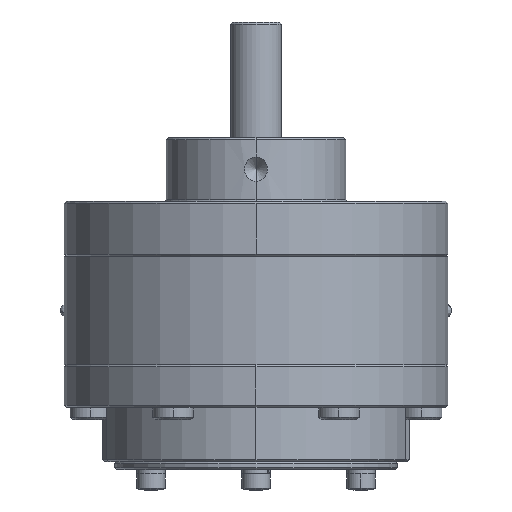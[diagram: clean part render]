
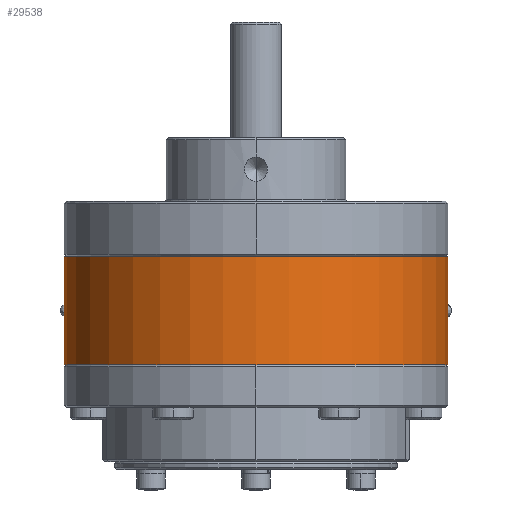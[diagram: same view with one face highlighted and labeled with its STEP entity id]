
A CAD part, front view. The second image highlights one B-rep face of the part: STEP entity #29538.
In plain terms, the highlighted cylindrical face has radius 47.5 mm (diameter 95 mm), a partial arc.
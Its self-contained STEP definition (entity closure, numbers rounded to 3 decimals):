
#230 = CARTESIAN_POINT ( 'NONE',  ( -47.5, 0., -13.375 ) ) ;
#591 = CARTESIAN_POINT ( 'NONE',  ( 47.5, 0., 40.629 ) ) ;
#794 = VERTEX_POINT ( 'NONE', #32399 ) ;
#1503 = CARTESIAN_POINT ( 'NONE',  ( 0., 0., -13.375 ) ) ;
#1534 = CARTESIAN_POINT ( 'NONE',  ( 0., 0., 13.375 ) ) ;
#1731 = AXIS2_PLACEMENT_3D ( 'NONE', #1503, #5552, #13176 ) ;
#2947 = DIRECTION ( 'NONE',  ( 0., 0., 1. ) ) ;
#3144 = LINE ( 'NONE', #43837, #22493 ) ;
#3242 = AXIS2_PLACEMENT_3D ( 'NONE', #1534, #44077, #4913 ) ;
#3470 = ORIENTED_EDGE ( 'NONE', *, *, #20025, .T. ) ;
#3485 = VERTEX_POINT ( 'NONE', #23928 ) ;
#4181 = AXIS2_PLACEMENT_3D ( 'NONE', #28213, #9133, #40355 ) ;
#4234 = EDGE_CURVE ( 'NONE', #794, #5096, #31424, .T. ) ;
#4913 = DIRECTION ( 'NONE',  ( 1., 0., 0. ) ) ;
#5096 = VERTEX_POINT ( 'NONE', #26433 ) ;
#5341 = LINE ( 'NONE', #37133, #22862 ) ;
#5552 = DIRECTION ( 'NONE',  ( 0., 0., 1. ) ) ;
#6924 = DIRECTION ( 'NONE',  ( 0., 0., 1. ) ) ;
#8556 = ORIENTED_EDGE ( 'NONE', *, *, #49744, .T. ) ;
#8682 = ORIENTED_EDGE ( 'NONE', *, *, #4234, .F. ) ;
#9133 = DIRECTION ( 'NONE',  ( 0., 0., 1. ) ) ;
#10045 = VERTEX_POINT ( 'NONE', #230 ) ;
#10101 = VECTOR ( 'NONE', #34856, 1000. ) ;
#12954 = EDGE_CURVE ( 'NONE', #10045, #17619, #3144, .T. ) ;
#13176 = DIRECTION ( 'NONE',  ( 1., 0., 0. ) ) ;
#13470 = EDGE_LOOP ( 'NONE', ( #16404, #35492, #20969, #3470, #43267, #8556, #8682, #29287 ) ) ;
#14845 = CARTESIAN_POINT ( 'NONE',  ( -47.5, 0., -11.25 ) ) ;
#16404 = ORIENTED_EDGE ( 'NONE', *, *, #12954, .F. ) ;
#17085 = CARTESIAN_POINT ( 'NONE',  ( 47.5, 0., -11.25 ) ) ;
#17287 = CIRCLE ( 'NONE', #1731, 47.5 ) ;
#17363 = LINE ( 'NONE', #591, #10101 ) ;
#17619 = VERTEX_POINT ( 'NONE', #14845 ) ;
#20025 = EDGE_CURVE ( 'NONE', #47270, #3485, #17363, .T. ) ;
#20969 = ORIENTED_EDGE ( 'NONE', *, *, #27932, .T. ) ;
#21589 = LINE ( 'NONE', #32382, #40273 ) ;
#22026 = CARTESIAN_POINT ( 'NONE',  ( 47.5, 0., 40.629 ) ) ;
#22493 = VECTOR ( 'NONE', #24550, 1000. ) ;
#22862 = VECTOR ( 'NONE', #6924, 1000. ) ;
#23928 = CARTESIAN_POINT ( 'NONE',  ( 47.5, 0., 11.25 ) ) ;
#24550 = DIRECTION ( 'NONE',  ( 0., 0., 1. ) ) ;
#24995 = CARTESIAN_POINT ( 'NONE',  ( -47.5, 0., 40.629 ) ) ;
#25100 = CARTESIAN_POINT ( 'NONE',  ( 47.5, 0., 13.375 ) ) ;
#26433 = CARTESIAN_POINT ( 'NONE',  ( -47.5, 0., 13.375 ) ) ;
#27932 = EDGE_CURVE ( 'NONE', #37030, #47270, #28086, .T. ) ;
#28086 = LINE ( 'NONE', #22026, #45626 ) ;
#28213 = CARTESIAN_POINT ( 'NONE',  ( 0., 0., 40.629 ) ) ;
#29287 = ORIENTED_EDGE ( 'NONE', *, *, #31415, .T. ) ;
#29538 = ADVANCED_FACE ( 'NONE', ( #47853 ), #36969, .T. ) ;
#30781 = VECTOR ( 'NONE', #43930, 1000. ) ;
#31016 = EDGE_CURVE ( 'NONE', #3485, #37301, #5341, .T. ) ;
#31415 = EDGE_CURVE ( 'NONE', #794, #17619, #21589, .T. ) ;
#31424 = LINE ( 'NONE', #24995, #30781 ) ;
#31830 = CIRCLE ( 'NONE', #3242, 47.5 ) ;
#32043 = DIRECTION ( 'NONE',  ( 0., 0., -1. ) ) ;
#32382 = CARTESIAN_POINT ( 'NONE',  ( -47.5, 0., 40.629 ) ) ;
#32399 = CARTESIAN_POINT ( 'NONE',  ( -47.5, 0., 11.25 ) ) ;
#34856 = DIRECTION ( 'NONE',  ( 0., 0., 1. ) ) ;
#35492 = ORIENTED_EDGE ( 'NONE', *, *, #37265, .T. ) ;
#36969 = CYLINDRICAL_SURFACE ( 'NONE', #4181, 47.5 ) ;
#37030 = VERTEX_POINT ( 'NONE', #45608 ) ;
#37133 = CARTESIAN_POINT ( 'NONE',  ( 47.5, 0., 40.629 ) ) ;
#37265 = EDGE_CURVE ( 'NONE', #10045, #37030, #17287, .T. ) ;
#37301 = VERTEX_POINT ( 'NONE', #25100 ) ;
#40273 = VECTOR ( 'NONE', #32043, 1000. ) ;
#40355 = DIRECTION ( 'NONE',  ( 1., 0., 0. ) ) ;
#43267 = ORIENTED_EDGE ( 'NONE', *, *, #31016, .T. ) ;
#43837 = CARTESIAN_POINT ( 'NONE',  ( -47.5, 0., 40.629 ) ) ;
#43930 = DIRECTION ( 'NONE',  ( 0., 0., 1. ) ) ;
#44077 = DIRECTION ( 'NONE',  ( 0., 0., -1. ) ) ;
#45608 = CARTESIAN_POINT ( 'NONE',  ( 47.5, 0., -13.375 ) ) ;
#45626 = VECTOR ( 'NONE', #2947, 1000. ) ;
#47270 = VERTEX_POINT ( 'NONE', #17085 ) ;
#47853 = FACE_OUTER_BOUND ( 'NONE', #13470, .T. ) ;
#49744 = EDGE_CURVE ( 'NONE', #37301, #5096, #31830, .T. ) ;
